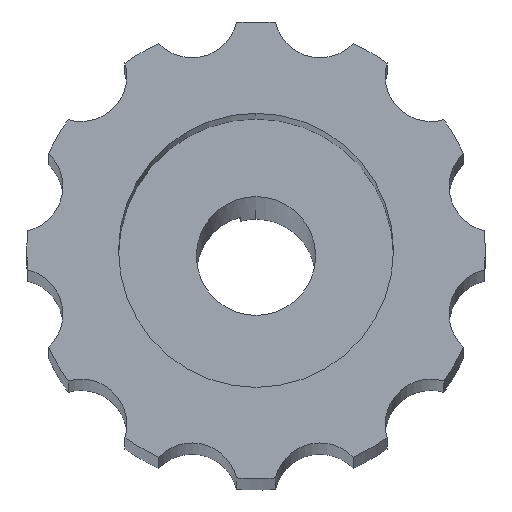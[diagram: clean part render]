
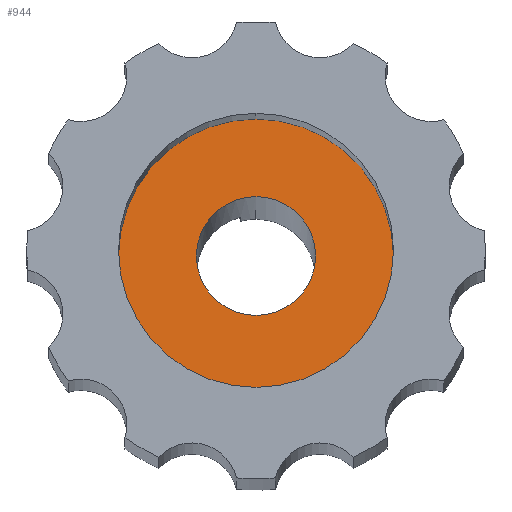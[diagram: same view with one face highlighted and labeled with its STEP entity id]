
A CAD part, left-side view. The second image highlights one B-rep face of the part: STEP entity #944.
In plain terms, the highlighted planar face has unit normal (-0.997, 0, 0.077).
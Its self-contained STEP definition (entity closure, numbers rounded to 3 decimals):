
#161=CARTESIAN_POINT('',(-21.452,0.,189.379));
#162=DIRECTION('',(0.997,0.,-0.077));
#163=DIRECTION('',(-0.077,0.,-0.997));
#164=AXIS2_PLACEMENT_3D('',#161,#162,#163);
#166=CARTESIAN_POINT('',(-21.452,0.,189.379));
#167=DIRECTION('',(0.997,0.,-0.077));
#168=DIRECTION('',(0.077,0.,0.997));
#169=AXIS2_PLACEMENT_3D('',#166,#167,#168);
#171=CARTESIAN_POINT('',(-21.452,0.,189.379));
#172=DIRECTION('',(-0.997,0.,0.077));
#173=DIRECTION('',(0.077,0.,0.997));
#174=AXIS2_PLACEMENT_3D('',#171,#172,#173);
#176=CARTESIAN_POINT('',(-21.452,0.,189.379));
#177=DIRECTION('',(-0.997,0.,0.077));
#178=DIRECTION('',(-0.077,0.,-0.997));
#179=AXIS2_PLACEMENT_3D('',#176,#177,#178);
#689=CARTESIAN_POINT('',(-21.201,0.,192.619));
#690=VERTEX_POINT('',#689);
#691=CARTESIAN_POINT('',(-21.703,0.,186.139));
#692=VERTEX_POINT('',#691);
#693=CARTESIAN_POINT('',(-22.032,0.,181.902));
#694=CARTESIAN_POINT('',(-20.872,0.,196.857));
#695=VERTEX_POINT('',#693);
#696=VERTEX_POINT('',#694);
#929=CARTESIAN_POINT('',(-21.452,0.,189.379));
#930=DIRECTION('',(0.997,0.,-0.077));
#931=DIRECTION('',(-0.077,0.,-0.997));
#932=AXIS2_PLACEMENT_3D('',#929,#930,#931);
#933=PLANE('',#932);
#935=ORIENTED_EDGE('',*,*,#934,.T.);
#937=ORIENTED_EDGE('',*,*,#936,.T.);
#938=EDGE_LOOP('',(#935,#937));
#939=FACE_OUTER_BOUND('',#938,.F.);
#940=ORIENTED_EDGE('',*,*,#819,.T.);
#941=ORIENTED_EDGE('',*,*,#882,.T.);
#942=EDGE_LOOP('',(#940,#941));
#943=FACE_BOUND('',#942,.F.);
#944=ADVANCED_FACE('',(#939,#943),#933,.F.);
#165=CIRCLE('',#164,7.5);
#170=CIRCLE('',#169,7.5);
#175=CIRCLE('',#174,3.25);
#180=CIRCLE('',#179,3.25);
#819=EDGE_CURVE('',#690,#692,#175,.T.);
#882=EDGE_CURVE('',#692,#690,#180,.T.);
#934=EDGE_CURVE('',#695,#696,#165,.T.);
#936=EDGE_CURVE('',#696,#695,#170,.T.);
